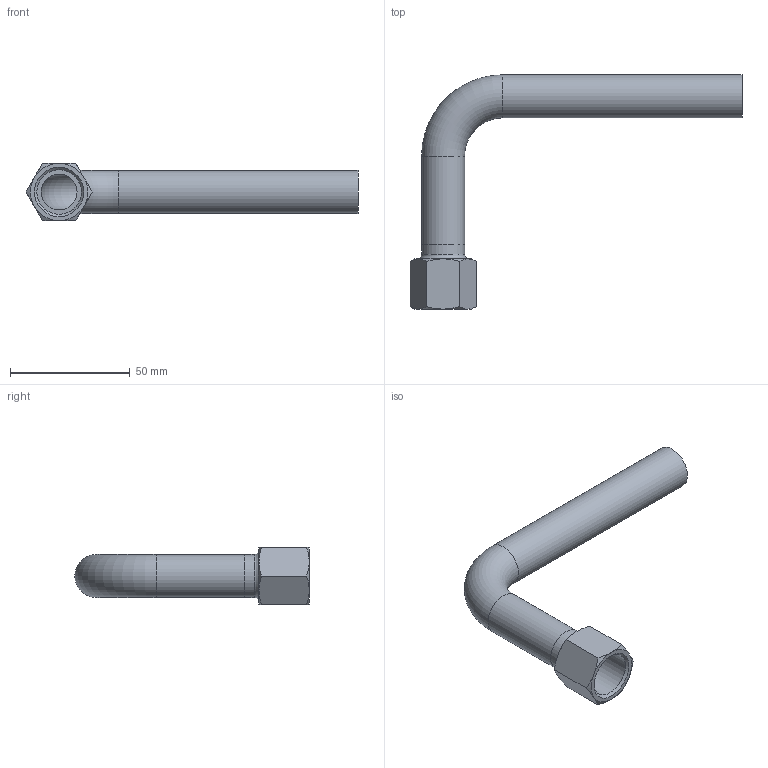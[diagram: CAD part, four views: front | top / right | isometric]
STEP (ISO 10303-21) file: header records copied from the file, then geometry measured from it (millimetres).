
FILE_DESCRIPTION((''),'2;1');
FILE_NAME('G:\Technics\CAD\Bauteile\018\69003G1812(1).stp','2008-01-31T09:25:02',('herberg'),(''),'Autodesk Inventor 2008','Autodesk Inventor 2008','');
FILE_SCHEMA(('AUTOMOTIVE_DESIGN { 1 0 10303 214 1 1 1 1 }'));
Length unit declared in the file: millimetre
Products named in the file (3): 69003G1812(1); 6900318(0); IG1812(1)
Assembly tree (2 placements, depth 2):
  69003G1812(1)
    6900318(0)
    IG1812(1)
Bounding box: 138.86 x 98 x 24 mm (x, y, z)
Volume: 19201.9 mm3; surface area: 22510.1 mm2
Topology: 2 solids, 2 shells, 35 faces, 70 edges, 41 vertices
Faces by surface type: cone 13, plane 11, cylinder 5, bspline 4, torus 2
Full cylindrical faces by diameter (mm): 15 x2, 18 x3
Entity records: 964 total; most frequent: CARTESIAN_POINT 267, DIRECTION 134, ORIENTED_EDGE 116, AXIS2_PLACEMENT_3D 64, EDGE_CURVE 58, EDGE_LOOP 52, VERTEX_POINT 40, FACE_OUTER_BOUND 35
